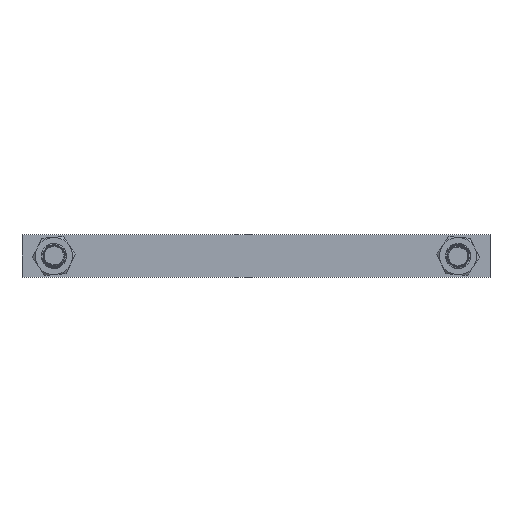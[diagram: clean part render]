
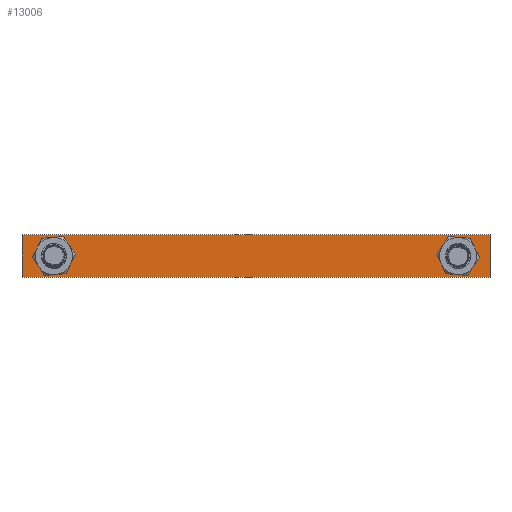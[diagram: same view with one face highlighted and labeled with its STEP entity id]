
A CAD part, front view. The second image highlights one B-rep face of the part: STEP entity #13006.
In plain terms, the highlighted planar face has unit normal (0, -1, 0).
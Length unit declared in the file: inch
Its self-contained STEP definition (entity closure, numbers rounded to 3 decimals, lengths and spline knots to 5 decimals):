
#74 = CARTESIAN_POINT ( 'NONE',  ( 16.5, 0.05, -0.74833 ) ) ;
#332 = VECTOR ( 'NONE', #13586, 39.37008 ) ;
#393 = ORIENTED_EDGE ( 'NONE', *, *, #13914, .T. ) ;
#546 = VECTOR ( 'NONE', #2663, 39.37008 ) ;
#625 = CIRCLE ( 'NONE', #2366, 0.5 ) ;
#942 = CARTESIAN_POINT ( 'NONE',  ( 1.125, 0.05, 0. ) ) ;
#1668 = DIRECTION ( 'NONE',  ( 0., 1., 0. ) ) ;
#1861 = VERTEX_POINT ( 'NONE', #12657 ) ;
#2366 = AXIS2_PLACEMENT_3D ( 'NONE', #16787, #4341, #4251 ) ;
#2441 = CARTESIAN_POINT ( 'NONE',  ( 0., 0.05, 0.74833 ) ) ;
#2663 = DIRECTION ( 'NONE',  ( 0., 0., -1. ) ) ;
#3051 = DIRECTION ( 'NONE',  ( 0., 0., 1. ) ) ;
#3304 = ORIENTED_EDGE ( 'NONE', *, *, #4276, .F. ) ;
#4251 = DIRECTION ( 'NONE',  ( 0., 0., -1. ) ) ;
#4276 = EDGE_CURVE ( 'Edge10', #1861, #15398, #12628, .T. ) ;
#4341 = DIRECTION ( 'NONE',  ( 0., 1., 0. ) ) ;
#4427 = EDGE_CURVE ( 'Edge7', #5018, #12660, #12220, .T. ) ;
#4498 = DIRECTION ( 'NONE',  ( 0., 0., -1. ) ) ;
#4656 = CARTESIAN_POINT ( 'NONE',  ( 0., 0.05, -0.74833 ) ) ;
#5018 = VERTEX_POINT ( 'NONE', #14270 ) ;
#5138 = DIRECTION ( 'NONE',  ( 0., 1., 0. ) ) ;
#5304 = AXIS2_PLACEMENT_3D ( 'NONE', #6334, #12012, #16143 ) ;
#5309 = EDGE_LOOP ( 'NONE', ( #17269, #17084, #393, #3304 ) ) ;
#5313 = CARTESIAN_POINT ( 'NONE',  ( 1.125, 0.05, -0.5 ) ) ;
#5497 = PLANE ( 'NONE',  #8213 ) ;
#5703 = ORIENTED_EDGE ( 'NONE', *, *, #9938, .T. ) ;
#5843 = FACE_BOUND ( 'NONE', #11849, .T. ) ;
#6334 = CARTESIAN_POINT ( 'NONE',  ( 15.375, 0.05, 0. ) ) ;
#6544 = CARTESIAN_POINT ( 'NONE',  ( 16.5, 0.05, 0.74833 ) ) ;
#7221 = ORIENTED_EDGE ( 'NONE', *, *, #4427, .T. ) ;
#7225 = EDGE_CURVE ( 'Edge12', #16206, #12906, #8158, .T. ) ;
#7246 = ORIENTED_EDGE ( 'NONE', *, *, #12621, .T. ) ;
#8152 = CARTESIAN_POINT ( 'NONE',  ( 1.125, 0.05, 0.5 ) ) ;
#8158 = CIRCLE ( 'NONE', #9612, 0.5 ) ;
#8213 = AXIS2_PLACEMENT_3D ( 'NONE', #13995, #12544, #4498 ) ;
#8269 = VERTEX_POINT ( 'NONE', #2441 ) ;
#9065 = LINE ( 'NONE', #11708, #17896 ) ;
#9333 = DIRECTION ( 'NONE',  ( 0., 0., -1. ) ) ;
#9384 = VERTEX_POINT ( 'NONE', #4656 ) ;
#9543 = LINE ( 'NONE', #6544, #332 ) ;
#9612 = AXIS2_PLACEMENT_3D ( 'NONE', #942, #5138, #9333 ) ;
#9748 = LINE ( 'NONE', #74, #11127 ) ;
#9938 = EDGE_CURVE ( 'Edge12', #12906, #16206, #625, .T. ) ;
#10934 = DIRECTION ( 'NONE',  ( 1., 0., 0. ) ) ;
#11127 = VECTOR ( 'NONE', #10934, 39.37008 ) ;
#11624 = EDGE_LOOP ( 'NONE', ( #7246, #7221 ) ) ;
#11708 = CARTESIAN_POINT ( 'NONE',  ( 0., 0.05, 0. ) ) ;
#11722 = CARTESIAN_POINT ( 'NONE',  ( 15.375, 0.05, 0. ) ) ;
#11849 = EDGE_LOOP ( 'NONE', ( #12311, #5703 ) ) ;
#12012 = DIRECTION ( 'NONE',  ( 0., 1., 0. ) ) ;
#12220 = CIRCLE ( 'NONE', #13679, 0.5 ) ;
#12261 = EDGE_CURVE ( 'NONE', #1861, #8269, #9543, .T. ) ;
#12311 = ORIENTED_EDGE ( 'NONE', *, *, #7225, .T. ) ;
#12544 = DIRECTION ( 'NONE',  ( 0., -1., 0. ) ) ;
#12621 = EDGE_CURVE ( 'Edge7', #12660, #5018, #16118, .T. ) ;
#12628 = LINE ( 'NONE', #15195, #546 ) ;
#12632 = FACE_BOUND ( 'NONE', #11624, .T. ) ;
#12657 = CARTESIAN_POINT ( 'NONE',  ( 16.5, 0.05, 0.74833 ) ) ;
#12660 = VERTEX_POINT ( 'NONE', #14492 ) ;
#12906 = VERTEX_POINT ( 'NONE', #8152 ) ;
#13006 = ADVANCED_FACE ( 'Face6', ( #12632, #15459, #5843 ), #5497, .T. ) ;
#13106 = DIRECTION ( 'NONE',  ( 0., 0., -1. ) ) ;
#13586 = DIRECTION ( 'NONE',  ( -1., 0., 0. ) ) ;
#13679 = AXIS2_PLACEMENT_3D ( 'NONE', #11722, #1668, #3051 ) ;
#13914 = EDGE_CURVE ( 'Edge13', #9384, #15398, #9748, .T. ) ;
#13995 = CARTESIAN_POINT ( 'NONE',  ( 0., 0.05, 0. ) ) ;
#14270 = CARTESIAN_POINT ( 'NONE',  ( 15.375, 0.05, 0.5 ) ) ;
#14492 = CARTESIAN_POINT ( 'NONE',  ( 15.375, 0.05, -0.5 ) ) ;
#15195 = CARTESIAN_POINT ( 'NONE',  ( 16.5, 0.05, 0.875 ) ) ;
#15398 = VERTEX_POINT ( 'NONE', #16082 ) ;
#15459 = FACE_OUTER_BOUND ( 'NONE', #5309, .T. ) ;
#15790 = EDGE_CURVE ( 'Edge6', #8269, #9384, #9065, .T. ) ;
#16082 = CARTESIAN_POINT ( 'NONE',  ( 16.5, 0.05, -0.74833 ) ) ;
#16118 = CIRCLE ( 'NONE', #5304, 0.5 ) ;
#16143 = DIRECTION ( 'NONE',  ( 0., 0., 1. ) ) ;
#16206 = VERTEX_POINT ( 'NONE', #5313 ) ;
#16787 = CARTESIAN_POINT ( 'NONE',  ( 1.125, 0.05, 0. ) ) ;
#17084 = ORIENTED_EDGE ( 'NONE', *, *, #15790, .T. ) ;
#17269 = ORIENTED_EDGE ( 'NONE', *, *, #12261, .T. ) ;
#17896 = VECTOR ( 'NONE', #13106, 39.37008 ) ;
